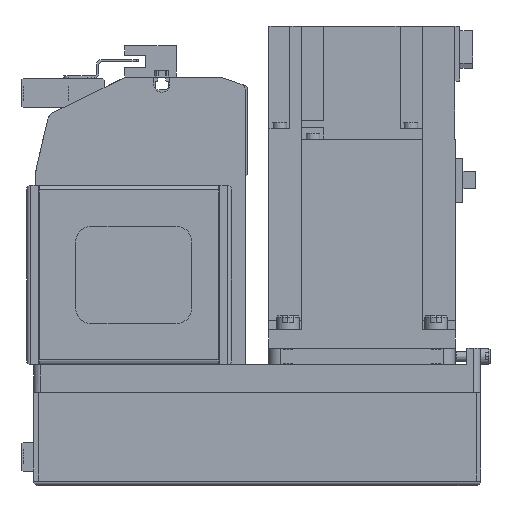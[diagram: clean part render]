
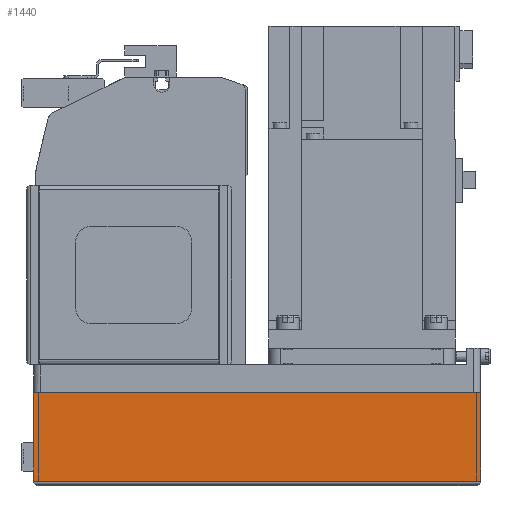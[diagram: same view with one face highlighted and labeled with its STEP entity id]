
A CAD part, left-side view. The second image highlights one B-rep face of the part: STEP entity #1440.
In plain terms, the highlighted planar face has unit normal (-1, 0, 0) as drawn and (0, 1, 0) by its records, which use the part's own axes.
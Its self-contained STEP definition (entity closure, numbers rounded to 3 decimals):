
#1440 = ADVANCED_FACE( '', ( #3758 ), #3759, .T. );
#3758 = FACE_OUTER_BOUND( '', #7252, .T. );
#3759 = PLANE( '', #7253 );
#7252 = EDGE_LOOP( '', ( #11365, #11366, #11367, #11368 ) );
#7253 = AXIS2_PLACEMENT_3D( '', #11369, #11370, #11371 );
#11365 = ORIENTED_EDGE( '', *, *, #20364, .F. );
#11366 = ORIENTED_EDGE( '', *, *, #20365, .F. );
#11367 = ORIENTED_EDGE( '', *, *, #20366, .T. );
#11368 = ORIENTED_EDGE( '', *, *, #20367, .T. );
#11369 = CARTESIAN_POINT( '', ( -192., 40., -50. ) );
#11370 = DIRECTION( '', ( 0., 1., 0. ) );
#11371 = DIRECTION( '', ( 0., 0., 1. ) );
#20364 = EDGE_CURVE( '', #24489, #24490, #24491, .T. );
#20365 = EDGE_CURVE( '', #24492, #24489, #24493, .T. );
#20366 = EDGE_CURVE( '', #24492, #24494, #24495, .T. );
#20367 = EDGE_CURVE( '', #24494, #24490, #24496, .T. );
#24489 = VERTEX_POINT( '', #30520 );
#24490 = VERTEX_POINT( '', #30521 );
#24491 = LINE( '', #30522, #30523 );
#24492 = VERTEX_POINT( '', #30524 );
#24493 = LINE( '', #30525, #30526 );
#24494 = VERTEX_POINT( '', #30527 );
#24495 = LINE( '', #30528, #30529 );
#24496 = LINE( '', #30530, #30531 );
#30520 = CARTESIAN_POINT( '', ( 0., 40., -50. ) );
#30521 = CARTESIAN_POINT( '', ( 0., 40., -12.1 ) );
#30522 = CARTESIAN_POINT( '', ( 0., 40., -50. ) );
#30523 = VECTOR( '', #37828, 1000. );
#30524 = CARTESIAN_POINT( '', ( -192., 40., -50. ) );
#30525 = CARTESIAN_POINT( '', ( -192., 40., -50. ) );
#30526 = VECTOR( '', #37829, 1000. );
#30527 = CARTESIAN_POINT( '', ( -192., 40., -12.1 ) );
#30528 = CARTESIAN_POINT( '', ( -192., 40., -50. ) );
#30529 = VECTOR( '', #37830, 1000. );
#30530 = CARTESIAN_POINT( '', ( -192., 40., -12.1 ) );
#30531 = VECTOR( '', #37831, 1000. );
#37828 = DIRECTION( '', ( 0., 0., 1. ) );
#37829 = DIRECTION( '', ( 1., 0., 0. ) );
#37830 = DIRECTION( '', ( 0., 0., 1. ) );
#37831 = DIRECTION( '', ( 1., 0., 0. ) );
